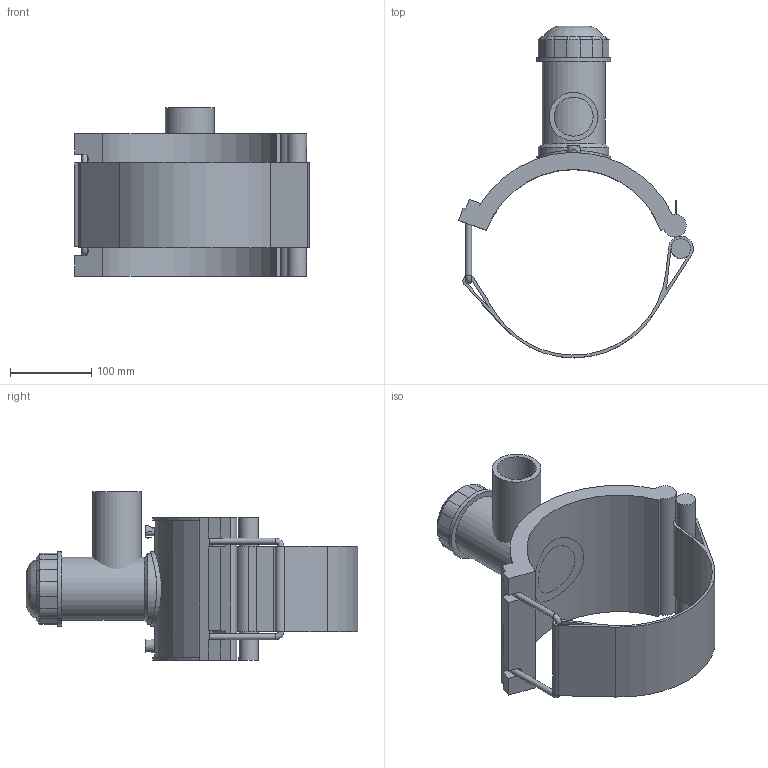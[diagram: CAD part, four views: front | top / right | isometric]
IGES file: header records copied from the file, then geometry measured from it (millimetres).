
Global section: file name: 5963DBP_5963BUP.ipt; native system: Autodesk Inventor 2019; preprocessor: unknown; author: KIM; date: 20210830.101706; units: inch
Bounding box: 289.75 x 409.37 x 207.9 mm (x, y, z)
Volume: 2066927.4 mm3; surface area: 404849.9 mm2
Topology: 4 solids, 4 shells, 125 faces, 305 edges, 196 vertices
Faces by surface type: plane 69, cylinder 30, revolution 13, cone 13
Full cylindrical faces by diameter (mm): 4 x2, 7.325 x2, 24.123 x1, 60.1 x1, 77.826 x1, 86.982 x1, 91.56 x2
